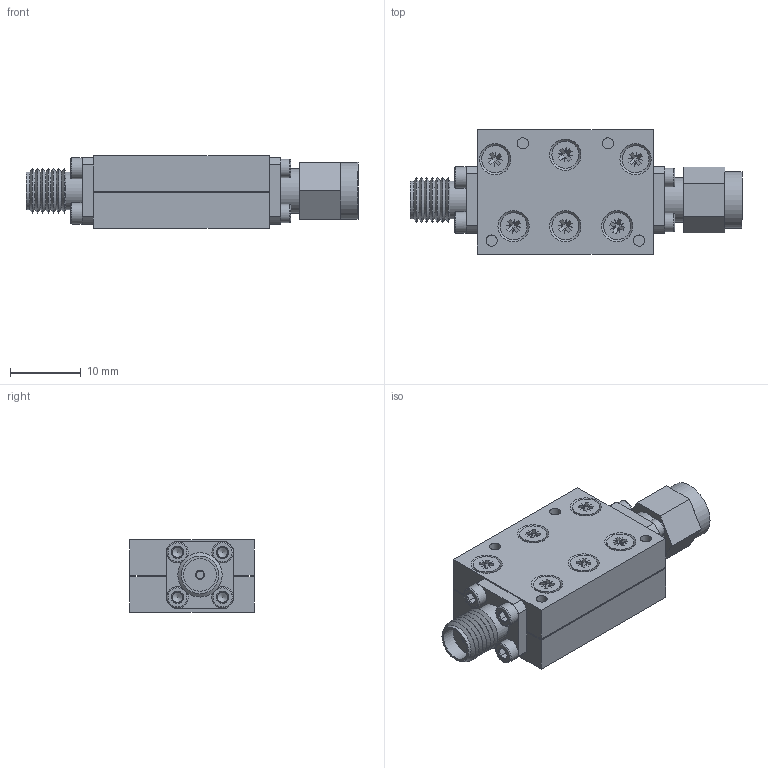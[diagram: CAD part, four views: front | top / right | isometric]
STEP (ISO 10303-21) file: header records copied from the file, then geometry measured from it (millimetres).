
FILE_DESCRIPTION(/* description */ ('Unknown'),/* implementation_level */ '2;1');
FILE_NAME(/* name */ 'DETI_MICROWAVE_HIGHPASS_FILTER_800023_STEP',/* time_stamp */ '2021-06-03T14:56:56+02:00',/* author */ ('ALG'),/* organization */ ('DETI'),/* preprocessor_version */ 'ST-DEVELOPER v16.7',/* originating_system */ 'Solid Edge',/* authorisation */ 'Unknown');
FILE_SCHEMA (('AUTOMOTIVE_DESIGN {1 0 10303 214 3 1 1}'));
Length unit declared in the file: millimetre
Products named in the file (1): 800023 0A 1601A2
Bounding box: 46.8 x 17.5 x 10.19 mm (x, y, z)
Volume: 5029.1 mm3; surface area: 5158.7 mm2
Topology: 1 solids, 13 shells, 527 faces, 1384 edges, 908 vertices
Faces by surface type: plane 369, cylinder 97, cone 43, torus 18
Full cylindrical faces by diameter (mm): 0.8 x1, 1.075 x6, 1.1 x1, 1.27 x4, 1.4 x4, 1.567 x10, 1.6 x4, 1.8 x8, 2 x12, 2.2 x6, 2.6 x4, 3 x4, 3.8 x6, 4.1 x2, 4.6 x2, 5.3 x3, 6.3 x1, 6.8 x1, 8 x1
Entity records: 18558 total; most frequent: CARTESIAN_POINT 2707, DIRECTION 2428, ORIENTED_EDGE 2332, EDGE_CURVE 1166, LINE 836, VECTOR 836, VERTEX_POINT 835, AXIS2_PLACEMENT_3D 796
